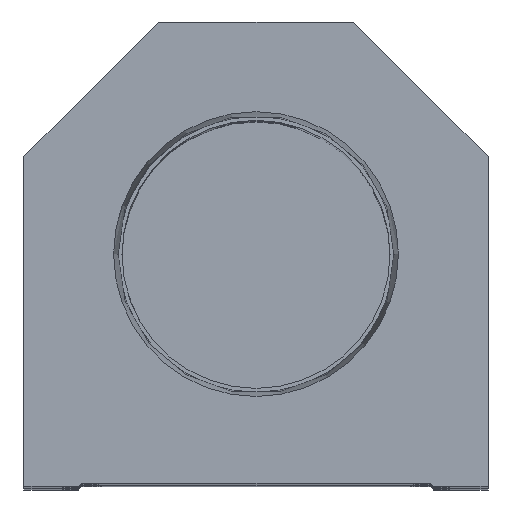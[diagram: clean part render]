
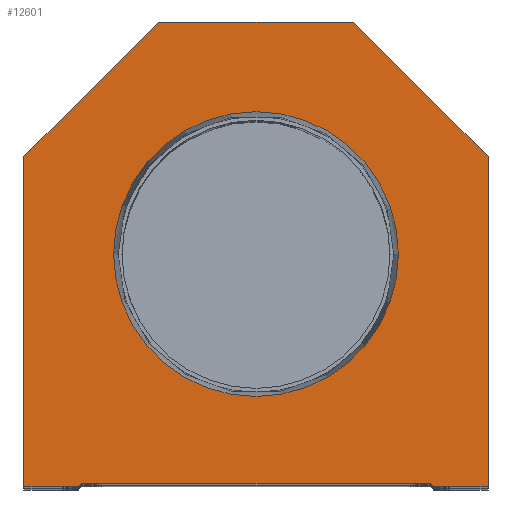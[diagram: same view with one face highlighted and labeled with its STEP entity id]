
A CAD part, top view. The second image highlights one B-rep face of the part: STEP entity #12601.
In plain terms, the highlighted planar face has unit normal (0, 0, 1).
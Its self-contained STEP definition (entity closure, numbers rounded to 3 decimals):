
#108 = VECTOR ( 'NONE', #8191, 1000. ) ;
#146 = DIRECTION ( 'NONE',  ( -1., 0., 0. ) ) ;
#180 = ORIENTED_EDGE ( 'NONE', *, *, #4579, .T. ) ;
#198 = CARTESIAN_POINT ( 'NONE',  ( 38.1, 0., 0. ) ) ;
#229 = LINE ( 'NONE', #5962, #3077 ) ;
#257 = CARTESIAN_POINT ( 'NONE',  ( 23.374, 38.1, 0. ) ) ;
#334 = CARTESIAN_POINT ( 'NONE',  ( 0., 0., 0. ) ) ;
#369 = VECTOR ( 'NONE', #15736, 1000. ) ;
#453 = DIRECTION ( 'NONE',  ( 1., 0., 0. ) ) ;
#1088 = ORIENTED_EDGE ( 'NONE', *, *, #13369, .T. ) ;
#1451 = ORIENTED_EDGE ( 'NONE', *, *, #10850, .F. ) ;
#1644 = LINE ( 'NONE', #198, #23339 ) ;
#2479 = PLANE ( 'NONE',  #19935 ) ;
#2805 = LINE ( 'NONE', #22972, #108 ) ;
#2894 = VERTEX_POINT ( 'NONE', #5636 ) ;
#3042 = DIRECTION ( 'NONE',  ( -0.707, -0.707, 0. ) ) ;
#3077 = VECTOR ( 'NONE', #14849, 1000. ) ;
#3138 = CARTESIAN_POINT ( 'NONE',  ( -28.6, 0., 0. ) ) ;
#3284 = CARTESIAN_POINT ( 'NONE',  ( 28.6, 0., 0. ) ) ;
#3434 = VERTEX_POINT ( 'NONE', #14487 ) ;
#3793 = LINE ( 'NONE', #18283, #23395 ) ;
#3852 = EDGE_CURVE ( 'NONE', #3434, #21579, #20258, .T. ) ;
#3962 = VERTEX_POINT ( 'NONE', #15166 ) ;
#4579 = EDGE_CURVE ( 'NONE', #5965, #5345, #229, .T. ) ;
#4682 = ORIENTED_EDGE ( 'NONE', *, *, #13033, .T. ) ;
#4853 = LINE ( 'NONE', #12164, #9653 ) ;
#5001 = DIRECTION ( 'NONE',  ( 1., 0., 0. ) ) ;
#5126 = VECTOR ( 'NONE', #22973, 1000. ) ;
#5230 = ORIENTED_EDGE ( 'NONE', *, *, #12759, .T. ) ;
#5345 = VERTEX_POINT ( 'NONE', #12086 ) ;
#5395 = FACE_OUTER_BOUND ( 'NONE', #16303, .T. ) ;
#5489 = CARTESIAN_POINT ( 'NONE',  ( -14.55, 14.55, 0. ) ) ;
#5636 = CARTESIAN_POINT ( 'NONE',  ( 38.1, 0., 0. ) ) ;
#5862 = VERTEX_POINT ( 'NONE', #20587 ) ;
#5962 = CARTESIAN_POINT ( 'NONE',  ( -28.6, 0.5, 0. ) ) ;
#5965 = VERTEX_POINT ( 'NONE', #16307 ) ;
#6357 = EDGE_LOOP ( 'NONE', ( #1451, #14363 ) ) ;
#7092 = VERTEX_POINT ( 'NONE', #16896 ) ;
#7481 = DIRECTION ( 'NONE',  ( 0., 1., 0. ) ) ;
#7870 = VERTEX_POINT ( 'NONE', #8529 ) ;
#8191 = DIRECTION ( 'NONE',  ( 0., -1., 0. ) ) ;
#8529 = CARTESIAN_POINT ( 'NONE',  ( -29.1, 0., 0. ) ) ;
#8929 = ORIENTED_EDGE ( 'NONE', *, *, #14832, .T. ) ;
#9055 = ORIENTED_EDGE ( 'NONE', *, *, #9679, .T. ) ;
#9653 = VECTOR ( 'NONE', #3042, 1000. ) ;
#9679 = EDGE_CURVE ( 'NONE', #5345, #15172, #15617, .T. ) ;
#10850 = EDGE_CURVE ( 'NONE', #21579, #3434, #17631, .T. ) ;
#11125 = DIRECTION ( 'NONE',  ( -0.707, 0.707, 0. ) ) ;
#11353 = ORIENTED_EDGE ( 'NONE', *, *, #21536, .T. ) ;
#11920 = AXIS2_PLACEMENT_3D ( 'NONE', #14106, #23606, #5001 ) ;
#12086 = CARTESIAN_POINT ( 'NONE',  ( 28.6, 0.5, 0. ) ) ;
#12164 = CARTESIAN_POINT ( 'NONE',  ( -38.1, 54.1, 0. ) ) ;
#12601 = ADVANCED_FACE ( 'NONE', ( #21606, #5395 ), #2479, .T. ) ;
#12695 = AXIS2_PLACEMENT_3D ( 'NONE', #15710, #13679, #13919 ) ;
#12759 = EDGE_CURVE ( 'NONE', #2894, #7092, #1644, .T. ) ;
#12764 = VECTOR ( 'NONE', #20063, 1000. ) ;
#13033 = EDGE_CURVE ( 'NONE', #17389, #22422, #2805, .T. ) ;
#13096 = EDGE_CURVE ( 'NONE', #5862, #17389, #4853, .T. ) ;
#13102 = CARTESIAN_POINT ( 'NONE',  ( 16., 76.2, 0. ) ) ;
#13369 = EDGE_CURVE ( 'NONE', #7092, #3962, #3793, .T. ) ;
#13679 = DIRECTION ( 'NONE',  ( 0., 0., 1. ) ) ;
#13919 = DIRECTION ( 'NONE',  ( 1., 0., 0. ) ) ;
#13964 = EDGE_CURVE ( 'NONE', #15172, #2894, #19550, .T. ) ;
#14106 = CARTESIAN_POINT ( 'NONE',  ( 0., 38.1, 0. ) ) ;
#14212 = EDGE_CURVE ( 'NONE', #22422, #7870, #15489, .T. ) ;
#14363 = ORIENTED_EDGE ( 'NONE', *, *, #3852, .F. ) ;
#14487 = CARTESIAN_POINT ( 'NONE',  ( -23.374, 38.1, 0. ) ) ;
#14832 = EDGE_CURVE ( 'NONE', #7870, #5965, #17695, .T. ) ;
#14849 = DIRECTION ( 'NONE',  ( 1., 0., 0. ) ) ;
#14928 = ORIENTED_EDGE ( 'NONE', *, *, #13096, .T. ) ;
#15166 = CARTESIAN_POINT ( 'NONE',  ( 16., 76.2, 0. ) ) ;
#15172 = VERTEX_POINT ( 'NONE', #17259 ) ;
#15456 = VECTOR ( 'NONE', #20928, 1000. ) ;
#15489 = LINE ( 'NONE', #3138, #15456 ) ;
#15617 = LINE ( 'NONE', #22845, #369 ) ;
#15710 = CARTESIAN_POINT ( 'NONE',  ( 0., 38.1, 0. ) ) ;
#15736 = DIRECTION ( 'NONE',  ( 0.707, -0.707, 0. ) ) ;
#15827 = CARTESIAN_POINT ( 'NONE',  ( -38.1, 54.1, 0. ) ) ;
#16303 = EDGE_LOOP ( 'NONE', ( #20455, #8929, #180, #9055, #18414, #5230, #1088, #11353, #14928, #4682 ) ) ;
#16307 = CARTESIAN_POINT ( 'NONE',  ( -28.6, 0.5, 0. ) ) ;
#16859 = DIRECTION ( 'NONE',  ( 0., 0., 1. ) ) ;
#16896 = CARTESIAN_POINT ( 'NONE',  ( 38.1, 54.1, 0. ) ) ;
#17259 = CARTESIAN_POINT ( 'NONE',  ( 29.1, 0., 0. ) ) ;
#17389 = VERTEX_POINT ( 'NONE', #15827 ) ;
#17631 = CIRCLE ( 'NONE', #12695, 23.374 ) ;
#17695 = LINE ( 'NONE', #5489, #12764 ) ;
#17750 = CARTESIAN_POINT ( 'NONE',  ( -38.1, 0., 0. ) ) ;
#18283 = CARTESIAN_POINT ( 'NONE',  ( 38.1, 54.1, 0. ) ) ;
#18414 = ORIENTED_EDGE ( 'NONE', *, *, #13964, .T. ) ;
#18429 = LINE ( 'NONE', #13102, #18997 ) ;
#18997 = VECTOR ( 'NONE', #146, 1000. ) ;
#19550 = LINE ( 'NONE', #3284, #5126 ) ;
#19935 = AXIS2_PLACEMENT_3D ( 'NONE', #334, #16859, #453 ) ;
#20063 = DIRECTION ( 'NONE',  ( 0.707, 0.707, 0. ) ) ;
#20258 = CIRCLE ( 'NONE', #11920, 23.374 ) ;
#20455 = ORIENTED_EDGE ( 'NONE', *, *, #14212, .T. ) ;
#20587 = CARTESIAN_POINT ( 'NONE',  ( -16., 76.2, 0. ) ) ;
#20928 = DIRECTION ( 'NONE',  ( 1., 0., 0. ) ) ;
#21536 = EDGE_CURVE ( 'NONE', #3962, #5862, #18429, .T. ) ;
#21579 = VERTEX_POINT ( 'NONE', #257 ) ;
#21606 = FACE_BOUND ( 'NONE', #6357, .T. ) ;
#22422 = VERTEX_POINT ( 'NONE', #17750 ) ;
#22845 = CARTESIAN_POINT ( 'NONE',  ( 14.55, 14.55, 0. ) ) ;
#22972 = CARTESIAN_POINT ( 'NONE',  ( -38.1, 0., 0. ) ) ;
#22973 = DIRECTION ( 'NONE',  ( 1., 0., 0. ) ) ;
#23339 = VECTOR ( 'NONE', #7481, 1000. ) ;
#23395 = VECTOR ( 'NONE', #11125, 1000. ) ;
#23606 = DIRECTION ( 'NONE',  ( 0., 0., 1. ) ) ;
